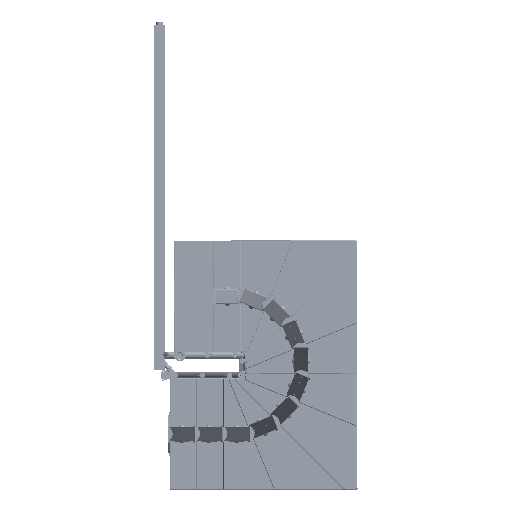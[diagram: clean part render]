
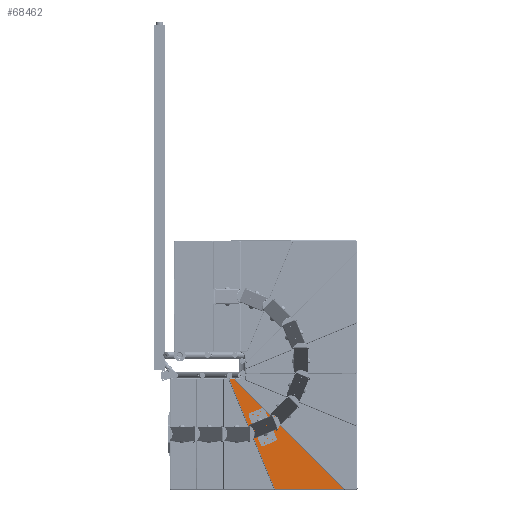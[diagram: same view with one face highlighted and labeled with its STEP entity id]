
A CAD part, front view. The second image highlights one B-rep face of the part: STEP entity #68462.
In plain terms, the highlighted planar face has unit normal (0, -1, 0) as drawn and (0, 1, 0) by its records, which use the part's own axes.
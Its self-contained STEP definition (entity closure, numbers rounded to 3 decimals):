
#1629 = AXIS2_PLACEMENT_3D ( 'NONE', #33685, #39378, #40150 ) ;
#2490 = VECTOR ( 'NONE', #72822, 1000. ) ;
#3144 = EDGE_CURVE ( 'NONE', #38519, #24968, #15843, .T. ) ;
#3218 = VERTEX_POINT ( 'NONE', #32461 ) ;
#3251 = DIRECTION ( 'NONE',  ( 0., 1., 0. ) ) ;
#6939 = AXIS2_PLACEMENT_3D ( 'NONE', #19552, #31990, #20664 ) ;
#7090 = CARTESIAN_POINT ( 'NONE',  ( -10., 19., 330.71 ) ) ;
#8003 = CARTESIAN_POINT ( 'NONE',  ( -442., 19., -535.137 ) ) ;
#8254 = DIRECTION ( 'NONE',  ( 0., 0., 1. ) ) ;
#9127 = CARTESIAN_POINT ( 'NONE',  ( -5., 19., -38.584 ) ) ;
#10559 = VERTEX_POINT ( 'NONE', #48904 ) ;
#11796 = VERTEX_POINT ( 'NONE', #56725 ) ;
#13035 = CIRCLE ( 'NONE', #6939, 5. ) ;
#13942 = CARTESIAN_POINT ( 'NONE',  ( -10., 19., 325.71 ) ) ;
#14001 = DIRECTION ( 'NONE',  ( 0., 1., 0. ) ) ;
#14654 = AXIS2_PLACEMENT_3D ( 'NONE', #13942, #3251, #15076 ) ;
#14932 = VERTEX_POINT ( 'NONE', #47297 ) ;
#15076 = DIRECTION ( 'NONE',  ( 0., 0., 1. ) ) ;
#15505 = CARTESIAN_POINT ( 'NONE',  ( -442., 19., -540.137 ) ) ;
#15843 = CIRCLE ( 'NONE', #14654, 5. ) ;
#15947 = ORIENTED_EDGE ( 'NONE', *, *, #64621, .T. ) ;
#16094 = EDGE_CURVE ( 'NONE', #26391, #52332, #42393, .T. ) ;
#16492 = ORIENTED_EDGE ( 'NONE', *, *, #39050, .T. ) ;
#18507 = DIRECTION ( 'NONE',  ( 0., 0., -1. ) ) ;
#18621 = VERTEX_POINT ( 'NONE', #41062 ) ;
#19226 = ORIENTED_EDGE ( 'NONE', *, *, #48813, .T. ) ;
#19552 = CARTESIAN_POINT ( 'NONE',  ( -10., 19., 325.71 ) ) ;
#19722 = FACE_OUTER_BOUND ( 'NONE', #56982, .T. ) ;
#20378 = LINE ( 'NONE', #60489, #39438 ) ;
#20664 = DIRECTION ( 'NONE',  ( 0., 0., 1. ) ) ;
#21652 = CARTESIAN_POINT ( 'NONE',  ( -105.666, 19., 289.911 ) ) ;
#23815 = AXIS2_PLACEMENT_3D ( 'NONE', #63024, #27479, #68318 ) ;
#24643 = PLANE ( 'NONE',  #64863 ) ;
#24959 = AXIS2_PLACEMENT_3D ( 'NONE', #52905, #53271, #18507 ) ;
#24968 = VERTEX_POINT ( 'NONE', #52165 ) ;
#26076 = EDGE_CURVE ( 'NONE', #11796, #26898, #62387, .T. ) ;
#26196 = EDGE_CURVE ( 'NONE', #26898, #10559, #20378, .T. ) ;
#26391 = VERTEX_POINT ( 'NONE', #74490 ) ;
#26898 = VERTEX_POINT ( 'NONE', #9127 ) ;
#27479 = DIRECTION ( 'NONE',  ( 0., 1., 0. ) ) ;
#27491 = EDGE_CURVE ( 'NONE', #52332, #14932, #56434, .T. ) ;
#29620 = VECTOR ( 'NONE', #56168, 1000. ) ;
#29885 = CARTESIAN_POINT ( 'NONE',  ( -105.666, 19., 289.911 ) ) ;
#30245 = ORIENTED_EDGE ( 'NONE', *, *, #27491, .T. ) ;
#30664 = DIRECTION ( 'NONE',  ( 0., 0., 1. ) ) ;
#30830 = ORIENTED_EDGE ( 'NONE', *, *, #31610, .T. ) ;
#31000 = DIRECTION ( 'NONE',  ( 0.383, 0., 0.924 ) ) ;
#31610 = EDGE_CURVE ( 'NONE', #70458, #26391, #73364, .T. ) ;
#31954 = CARTESIAN_POINT ( 'NONE',  ( -11.913, 19., 330.33 ) ) ;
#31990 = DIRECTION ( 'NONE',  ( 0., 1., 0. ) ) ;
#32461 = CARTESIAN_POINT ( 'NONE',  ( -440.087, 19., -539.756 ) ) ;
#33685 = CARTESIAN_POINT ( 'NONE',  ( -442., 19., -535.137 ) ) ;
#34742 = CARTESIAN_POINT ( 'NONE',  ( -11.913, 19., 330.33 ) ) ;
#34988 = VERTEX_POINT ( 'NONE', #34742 ) ;
#35250 = CARTESIAN_POINT ( 'NONE',  ( -442., 19., -535.137 ) ) ;
#35952 = ORIENTED_EDGE ( 'NONE', *, *, #54969, .T. ) ;
#36076 = CIRCLE ( 'NONE', #61478, 5. ) ;
#36360 = DIRECTION ( 'NONE',  ( 0., 1., 0. ) ) ;
#37196 = ORIENTED_EDGE ( 'NONE', *, *, #66919, .T. ) ;
#38077 = ORIENTED_EDGE ( 'NONE', *, *, #16094, .T. ) ;
#38519 = VERTEX_POINT ( 'NONE', #7090 ) ;
#39050 = EDGE_CURVE ( 'NONE', #34988, #38519, #13035, .T. ) ;
#39378 = DIRECTION ( 'NONE',  ( 0., 1., 0. ) ) ;
#39438 = VECTOR ( 'NONE', #43847, 1000. ) ;
#40150 = DIRECTION ( 'NONE',  ( 0., 0., 1. ) ) ;
#40726 = AXIS2_PLACEMENT_3D ( 'NONE', #8003, #48920, #70947 ) ;
#41062 = CARTESIAN_POINT ( 'NONE',  ( -8.087, 19., -360.816 ) ) ;
#41422 = VECTOR ( 'NONE', #31000, 1000. ) ;
#42393 = LINE ( 'NONE', #29885, #41422 ) ;
#43847 = DIRECTION ( 'NONE',  ( 0., 0., -1. ) ) ;
#44090 = LINE ( 'NONE', #31954, #29620 ) ;
#47297 = CARTESIAN_POINT ( 'NONE',  ( -102.96, 19., 292.617 ) ) ;
#47640 = CIRCLE ( 'NONE', #1629, 5. ) ;
#48813 = EDGE_CURVE ( 'NONE', #18621, #3218, #56101, .T. ) ;
#48904 = CARTESIAN_POINT ( 'NONE',  ( -5., 19., -356.197 ) ) ;
#48920 = DIRECTION ( 'NONE',  ( 0., 1., 0. ) ) ;
#49409 = ORIENTED_EDGE ( 'NONE', *, *, #3144, .T. ) ;
#49661 = CARTESIAN_POINT ( 'NONE',  ( -440.087, 19., -539.756 ) ) ;
#49931 = DIRECTION ( 'NONE',  ( 0., 0., -1. ) ) ;
#52165 = CARTESIAN_POINT ( 'NONE',  ( -5., 19., 325.71 ) ) ;
#52332 = VERTEX_POINT ( 'NONE', #21652 ) ;
#52905 = CARTESIAN_POINT ( 'NONE',  ( 26.8, 19., 0. ) ) ;
#53271 = DIRECTION ( 'NONE',  ( 0., -1., 0. ) ) ;
#53957 = VECTOR ( 'NONE', #49931, 1000. ) ;
#54094 = CARTESIAN_POINT ( 'NONE',  ( -10., 19., -356.197 ) ) ;
#54969 = EDGE_CURVE ( 'NONE', #24968, #11796, #60955, .T. ) ;
#56101 = LINE ( 'NONE', #49661, #2490 ) ;
#56168 = DIRECTION ( 'NONE',  ( 0.924, 0., 0.383 ) ) ;
#56305 = ORIENTED_EDGE ( 'NONE', *, *, #59465, .T. ) ;
#56434 = CIRCLE ( 'NONE', #23815, 5. ) ;
#56725 = CARTESIAN_POINT ( 'NONE',  ( -5., 19., 38.584 ) ) ;
#56982 = EDGE_LOOP ( 'NONE', ( #63261, #62910, #56305, #19226, #15947, #30830, #38077, #30245, #37196, #16492, #49409, #35952 ) ) ;
#59465 = EDGE_CURVE ( 'NONE', #10559, #18621, #36076, .T. ) ;
#59829 = CARTESIAN_POINT ( 'NONE',  ( -5., 19., -356.197 ) ) ;
#60489 = CARTESIAN_POINT ( 'NONE',  ( -5., 19., -356.197 ) ) ;
#60955 = LINE ( 'NONE', #59829, #53957 ) ;
#61478 = AXIS2_PLACEMENT_3D ( 'NONE', #54094, #14001, #8254 ) ;
#62387 = CIRCLE ( 'NONE', #24959, 50. ) ;
#62910 = ORIENTED_EDGE ( 'NONE', *, *, #26196, .T. ) ;
#63024 = CARTESIAN_POINT ( 'NONE',  ( -101.046, 19., 287.998 ) ) ;
#63261 = ORIENTED_EDGE ( 'NONE', *, *, #26076, .T. ) ;
#64621 = EDGE_CURVE ( 'NONE', #3218, #70458, #47640, .T. ) ;
#64863 = AXIS2_PLACEMENT_3D ( 'NONE', #35250, #36360, #30664 ) ;
#66919 = EDGE_CURVE ( 'NONE', #14932, #34988, #44090, .T. ) ;
#68318 = DIRECTION ( 'NONE',  ( 0., 0., 1. ) ) ;
#68462 = ADVANCED_FACE ( 'NONE', ( #19722 ), #24643, .T. ) ;
#70458 = VERTEX_POINT ( 'NONE', #15505 ) ;
#70947 = DIRECTION ( 'NONE',  ( 0., 0., 1. ) ) ;
#72822 = DIRECTION ( 'NONE',  ( -0.924, 0., -0.383 ) ) ;
#73364 = CIRCLE ( 'NONE', #40726, 5. ) ;
#74490 = CARTESIAN_POINT ( 'NONE',  ( -446.619, 19., -533.223 ) ) ;
